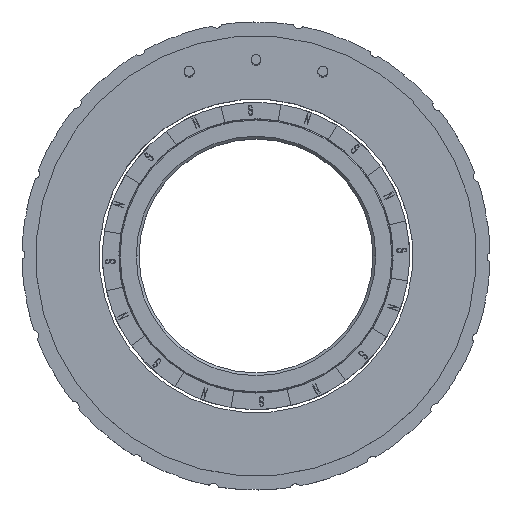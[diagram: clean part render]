
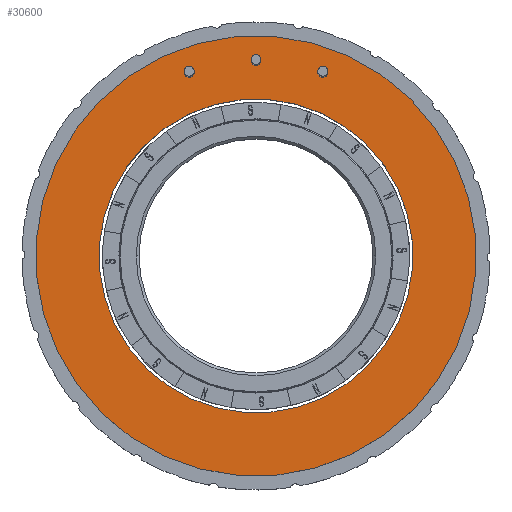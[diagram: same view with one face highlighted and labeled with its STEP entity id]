
A CAD part, top view. The second image highlights one B-rep face of the part: STEP entity #30600.
In plain terms, the highlighted planar face has unit normal (0, 0, 1).
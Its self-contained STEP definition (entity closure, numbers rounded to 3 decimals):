
#858 = EDGE_CURVE ( 'NONE', #34829, #47931, #42052, .T. ) ;
#1736 = CIRCLE ( 'NONE', #38132, 28.5 ) ;
#2990 = ORIENTED_EDGE ( 'NONE', *, *, #40975, .T. ) ;
#4138 = EDGE_CURVE ( 'NONE', #46341, #19470, #1736, .T. ) ;
#4996 = AXIS2_PLACEMENT_3D ( 'NONE', #52412, #52137, #32036 ) ;
#5691 = CARTESIAN_POINT ( 'NONE',  ( 0., 0., 367.269 ) ) ;
#5954 = CARTESIAN_POINT ( 'NONE',  ( 39.874, -3.172, 367.269 ) ) ;
#7329 = DIRECTION ( 'NONE',  ( 0., 0., 1. ) ) ;
#8106 = DIRECTION ( 'NONE',  ( 0.997, -0.079, 0. ) ) ;
#9164 = ORIENTED_EDGE ( 'NONE', *, *, #37358, .F. ) ;
#9927 = DIRECTION ( 'NONE',  ( 0., 0., 1. ) ) ;
#10141 = CARTESIAN_POINT ( 'NONE',  ( -28.41, 2.26, 367.269 ) ) ;
#10441 = PLANE ( 'NONE',  #33819 ) ;
#13018 = CARTESIAN_POINT ( 'NONE',  ( 0., 0., 367.269 ) ) ;
#13904 = FACE_BOUND ( 'NONE', #23727, .T. ) ;
#18229 = DIRECTION ( 'NONE',  ( 0., 0., 1. ) ) ;
#19153 = DIRECTION ( 'NONE',  ( 0.997, -0.079, 0. ) ) ;
#19259 = ORIENTED_EDGE ( 'NONE', *, *, #858, .T. ) ;
#19470 = VERTEX_POINT ( 'NONE', #25216 ) ;
#20143 = AXIS2_PLACEMENT_3D ( 'NONE', #27118, #35063, #19153 ) ;
#20672 = EDGE_LOOP ( 'NONE', ( #19259, #2990 ) ) ;
#21551 = CARTESIAN_POINT ( 'NONE',  ( -39.874, 3.172, 367.269 ) ) ;
#22219 = DIRECTION ( 'NONE',  ( 0.997, -0.079, 0. ) ) ;
#23727 = EDGE_LOOP ( 'NONE', ( #9164, #23799 ) ) ;
#23799 = ORIENTED_EDGE ( 'NONE', *, *, #4138, .F. ) ;
#25216 = CARTESIAN_POINT ( 'NONE',  ( 28.41, -2.26, 367.269 ) ) ;
#26092 = DIRECTION ( 'NONE',  ( 0.997, -0.079, 0. ) ) ;
#27118 = CARTESIAN_POINT ( 'NONE',  ( 0., 0., 367.269 ) ) ;
#30599 = FACE_OUTER_BOUND ( 'NONE', #20672, .T. ) ;
#30600 = ADVANCED_FACE ( 'NONE', ( #13904, #30599 ), #10441, .T. ) ;
#32036 = DIRECTION ( 'NONE',  ( 0.997, -0.079, 0. ) ) ;
#33819 = AXIS2_PLACEMENT_3D ( 'NONE', #5691, #9927, #26092 ) ;
#34829 = VERTEX_POINT ( 'NONE', #5954 ) ;
#35063 = DIRECTION ( 'NONE',  ( 0., 0., 1. ) ) ;
#37358 = EDGE_CURVE ( 'NONE', #19470, #46341, #51433, .T. ) ;
#38132 = AXIS2_PLACEMENT_3D ( 'NONE', #13018, #18229, #22219 ) ;
#40526 = CIRCLE ( 'NONE', #4996, 40. ) ;
#40975 = EDGE_CURVE ( 'NONE', #47931, #34829, #40526, .T. ) ;
#42052 = CIRCLE ( 'NONE', #20143, 40. ) ;
#43638 = CARTESIAN_POINT ( 'NONE',  ( 0., 0., 367.269 ) ) ;
#44672 = AXIS2_PLACEMENT_3D ( 'NONE', #43638, #7329, #8106 ) ;
#46341 = VERTEX_POINT ( 'NONE', #10141 ) ;
#47931 = VERTEX_POINT ( 'NONE', #21551 ) ;
#51433 = CIRCLE ( 'NONE', #44672, 28.5 ) ;
#52137 = DIRECTION ( 'NONE',  ( 0., 0., 1. ) ) ;
#52412 = CARTESIAN_POINT ( 'NONE',  ( 0., 0., 367.269 ) ) ;
